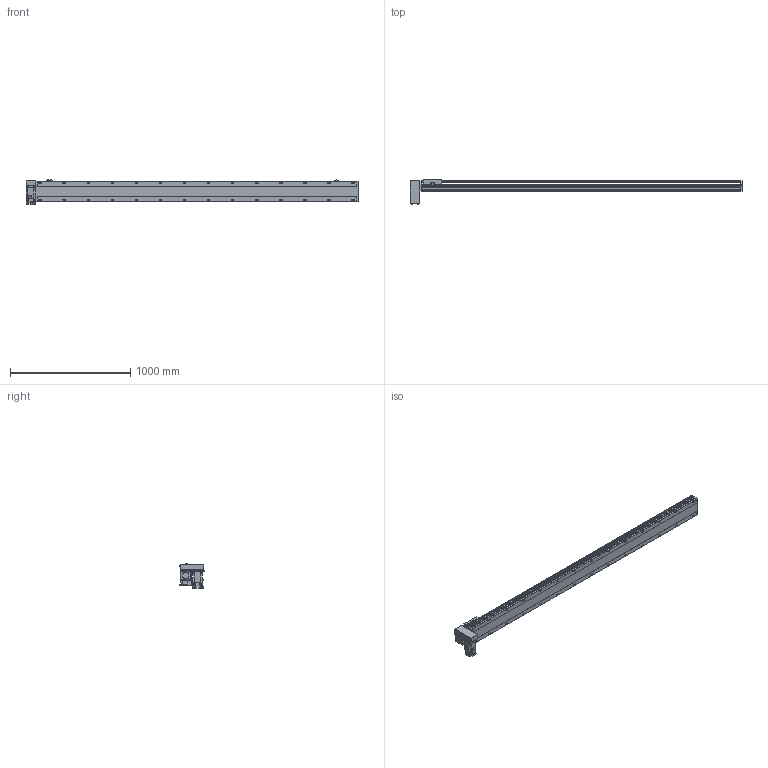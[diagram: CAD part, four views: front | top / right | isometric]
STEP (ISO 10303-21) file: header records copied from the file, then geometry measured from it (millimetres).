
FILE_DESCRIPTION( ( 'STEP AP214' ), '1' );
FILE_NAME( 'x:/temp/worker_5/temp/exporttempdir_3988_45_qPdTc/format_0/PBS170-P40-S2400-RD-T75-C1-N(0).stp', '2022-06-08T05:37:42', ( 'License CC BY-ND 4.0' ), ( 'CADENAS' ), ' ', 'PARTsolutions', ' ' );
FILE_SCHEMA( ( 'AUTOMOTIVE_DESIGN { 1 0 10303 214 1 1 1 1 }' ) );
Length unit declared in the file: millimetre
Products named in the file (7): PBS170-P40-S2400-RD-T75-C1-N(0); _PBS170-S2400()_body; _PBS170T-RD_motors; _T75-p1; _PBS170_sliser; _PBS170_plant; _PBS170_sensor
Assembly tree (8 placements, depth 2):
  PBS170-P40-S2400-RD-T75-C1-N(0)
    _PBS170-S2400()_body
    _PBS170T-RD_motors
    _T75-p1
    _PBS170_sliser
    _PBS170_plant
    _PBS170_sensor  x3
Bounding box: 2763 x 201 x 205.3 mm (x, y, z)
Volume: 20968085.4 mm3; surface area: 2642827.2 mm2
Topology: 8 solids, 8 shells, 1178 faces, 3115 edges, 2030 vertices
Faces by surface type: plane 723, cylinder 387, cone 58, sphere 8, torus 2
Full cylindrical faces by diameter (mm): 3.242 x4, 4 x2, 4.4 x4, 4.5 x6, 4.917 x4, 6 x9, 6.647 x36, 7 x2, 7.5 x4, 8 x8, 8.5 x28, 10 x4, 10.5 x28, 11 x2, 30 x2, 40 x1, 70 x1
Entity records: 43592 total; most frequent: CARTESIAN_POINT 7229, DIRECTION 5720, ORIENTED_EDGE 5388, EDGE_CURVE 2694, AXIS2_PLACEMENT_3D 2017, VERTEX_POINT 1874, LINE 1686, VECTOR 1686
